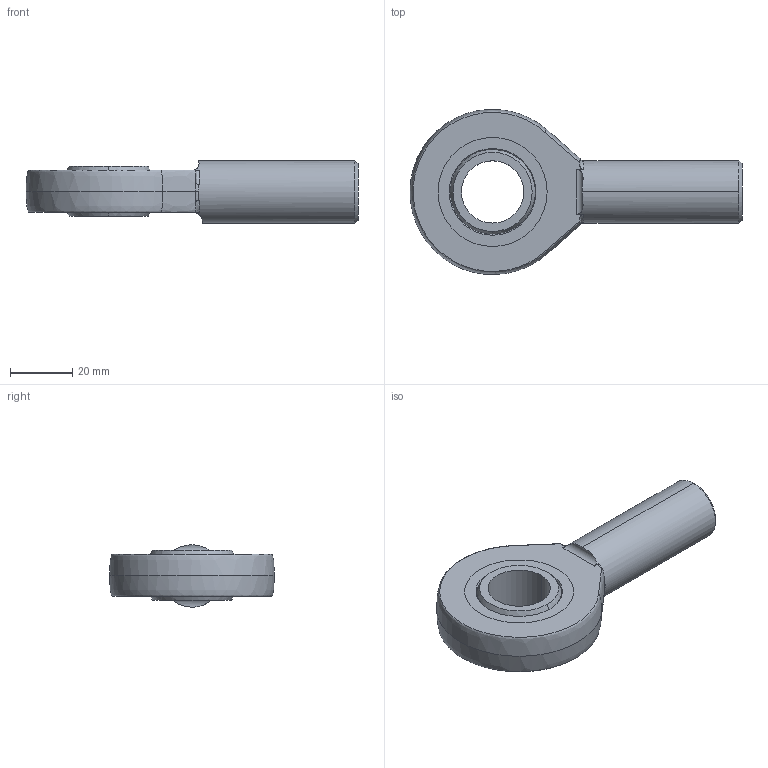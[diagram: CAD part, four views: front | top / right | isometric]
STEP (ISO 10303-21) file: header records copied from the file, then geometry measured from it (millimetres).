
FILE_DESCRIPTION (( 'STEP AP214' ), '1' );
FILE_NAME ('HL-3-003 2t-3t.STEP', '2023-06-02T15:05:09', ( '' ), ( '' ), 'SwSTEP 2.0', 'SolidWorks 2022', '' );
FILE_SCHEMA (( 'AUTOMOTIVE_DESIGN' ));
Length unit declared in the file: millimetre
Products named in the file (4): HL-3-003 2t-3t Rod end part3; HL-3-003 2t-3t Rod end part2; HL-3-003 2t-3t; HL-3-003 2t-3t Rod end
Assembly tree (3 placements, depth 2):
  HL-3-003 2t-3t
    HL-3-003 2t-3t Rod end
    HL-3-003 2t-3t Rod end part2
    HL-3-003 2t-3t Rod end part3
Bounding box: 106.5 x 52.93 x 20 mm (x, y, z)
Volume: 42883.1 mm3; surface area: 15866.8 mm2
Topology: 3 solids, 3 shells, 45 faces, 117 edges, 74 vertices
Faces by surface type: plane 11, cylinder 10, bspline 10, cone 6, torus 4, sphere 4
Entity records: 2064 total; most frequent: CARTESIAN_POINT 907, ORIENTED_EDGE 214, DIRECTION 202, EDGE_CURVE 107, AXIS2_PLACEMENT_3D 89, VERTEX_POINT 68, EDGE_LOOP 51, CIRCLE 48
